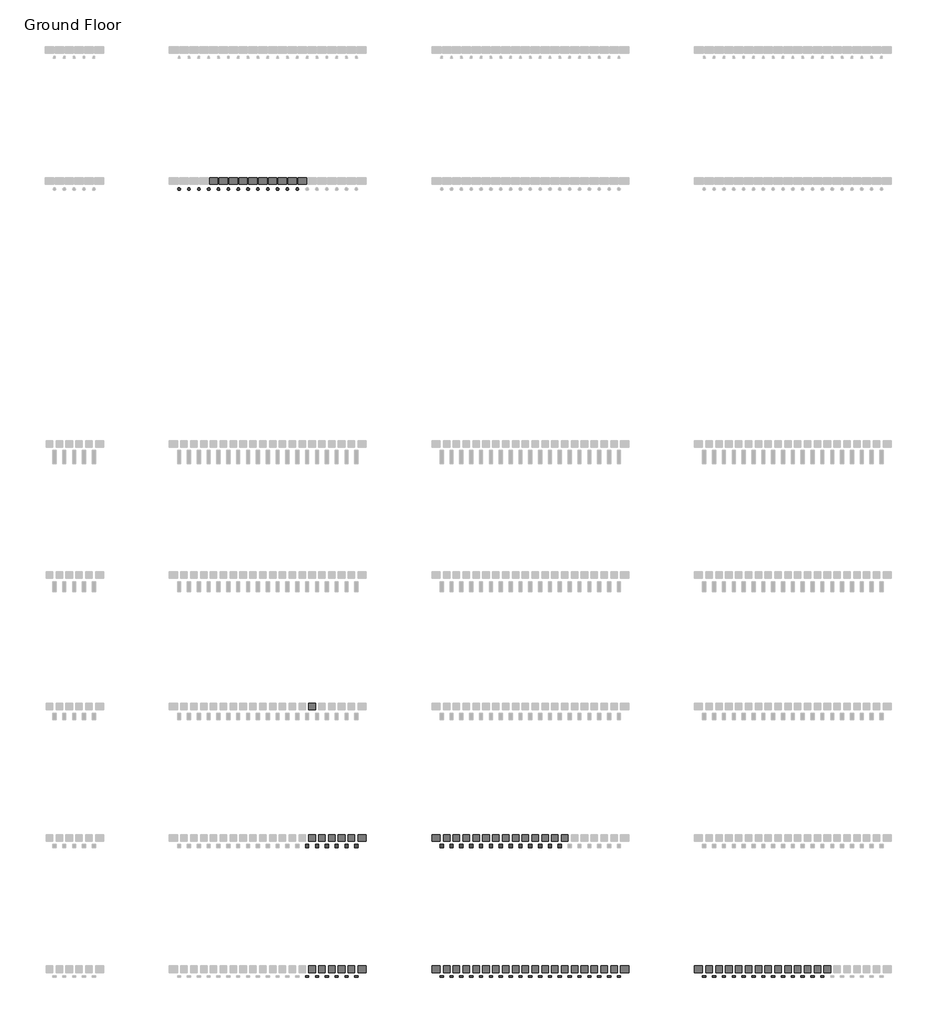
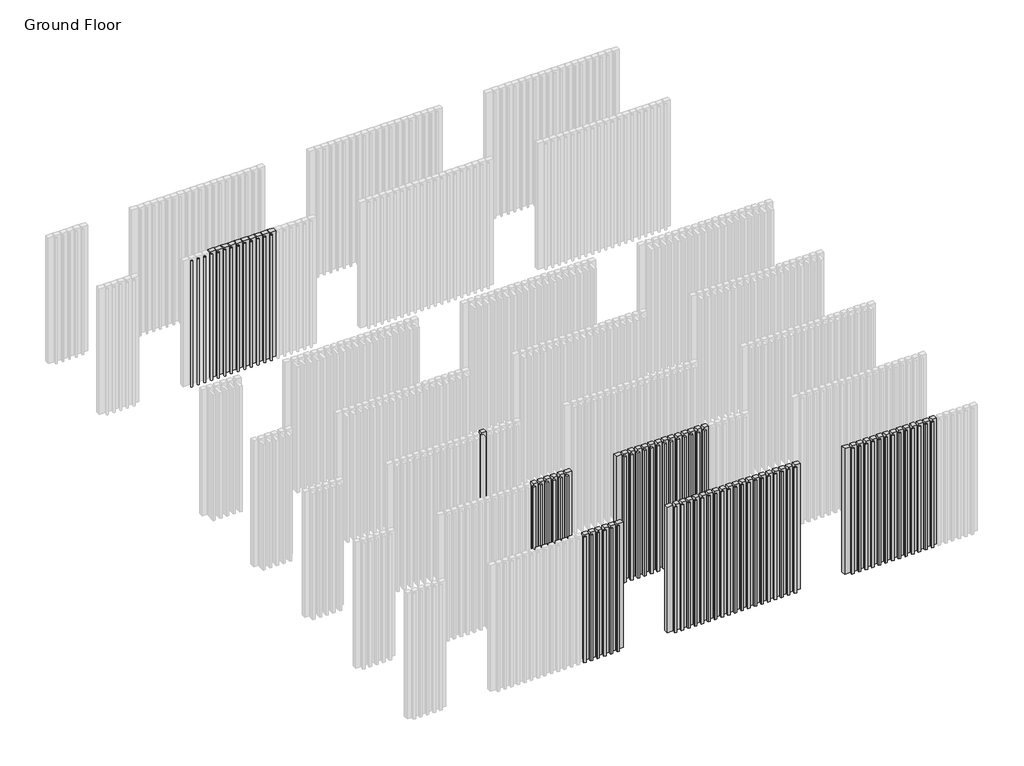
# One storey, part 18 of 350: 71 plates, 70 members.
"""IFC4 building model written with IfcOpenShell, lengths in millimetres."""

from ifc_helpers import new_model, si_unit, origin, place, context, project, spatial, transform, mapped, element, save
from components import rectangular_mullion_114f6a8f, rectangular_mullion_1e7650be, rectangular_mullion_d8d867ca, empty_system_panel_empty_a8601f27, empty_system_panel_empty_23ba90fe, empty_system_panel_empty_02e968fa, empty_system_panel_empty_a9f5b765

model = new_model("IFC4")

# Units and contexts
model_context = context("Model", 3, world=origin())
ifc_project = project(units=[si_unit("LENGTHUNIT", "METRE", prefix="MILLI")], contexts=[model_context])

# Site, building, storey
site = spatial("IfcSite", under=ifc_project)
building = spatial("IfcBuilding", under=site)
storey = spatial("IfcBuildingStorey", under=building, Name="Ground Floor", Elevation=0.0)

# Members
placement = place(None, origin())
rectangular_mullion_shape = rectangular_mullion_114f6a8f(model_context)
element("IfcMember", 1, ObjectType="Rectangular Mullion : Batten_Aluminium_Modinex_AluBatten_50x25_SpottedGum", at=placement, inside=storey, context=model_context, shape_type="MappedRepresentation", body=[
    mapped(rectangular_mullion_shape, transform((16016.4361642, 18968.2978302, 0.0), x_axis=(1.0, 0.0, 0.0), y_axis=(0.0, -1.0, 0.0), z_axis=(0.0, 0.0, -1.0))),
])
element("IfcMember", 2, ObjectType="Rectangular Mullion : Batten_Aluminium_Modinex_AluBatten_50x25_SpottedGum", at=placement, inside=storey, context=model_context, shape_type="MappedRepresentation", body=[
    mapped(rectangular_mullion_shape, transform((16166.4361642, 18968.2978302, 0.0), x_axis=(1.0, 0.0, 0.0), y_axis=(0.0, -1.0, 0.0), z_axis=(0.0, 0.0, -1.0))),
])
element("IfcMember", 3, ObjectType="Rectangular Mullion : Batten_Aluminium_Modinex_AluBatten_50x25_SpottedGum", at=placement, inside=storey, context=model_context, shape_type="MappedRepresentation", body=[
    mapped(rectangular_mullion_shape, transform((16316.4361642, 18968.2978302, 0.0), x_axis=(1.0, 0.0, 0.0), y_axis=(0.0, -1.0, 0.0), z_axis=(0.0, 0.0, -1.0))),
])
element("IfcMember", 4, ObjectType="Rectangular Mullion : Batten_Aluminium_Modinex_AluBatten_50x25_SpottedGum", at=placement, inside=storey, context=model_context, shape_type="MappedRepresentation", body=[
    mapped(rectangular_mullion_shape, transform((16466.4361642, 18968.2978302, 0.0), x_axis=(1.0, 0.0, 0.0), y_axis=(0.0, -1.0, 0.0), z_axis=(0.0, 0.0, -1.0))),
])
element("IfcMember", 5, ObjectType="Rectangular Mullion : Batten_Aluminium_Modinex_AluBatten_50x25_SpottedGum", at=placement, inside=storey, context=model_context, shape_type="MappedRepresentation", body=[
    mapped(rectangular_mullion_shape, transform((16616.4361642, 18968.2978302, 0.0), x_axis=(1.0, 0.0, 0.0), y_axis=(0.0, -1.0, 0.0), z_axis=(0.0, 0.0, -1.0))),
])
element("IfcMember", 6, ObjectType="Rectangular Mullion : Batten_Aluminium_Modinex_AluBatten_50x25_SpottedGum", at=placement, inside=storey, context=model_context, shape_type="MappedRepresentation", body=[
    mapped(rectangular_mullion_shape, transform((16766.4361642, 18968.2978302, 0.0), x_axis=(1.0, 0.0, 0.0), y_axis=(0.0, -1.0, 0.0), z_axis=(0.0, 0.0, -1.0))),
])
element("IfcMember", 7, ObjectType="Rectangular Mullion : Batten_Aluminium_Modinex_AluBatten_50x25_TasmanianOak", at=placement, inside=storey, context=model_context, shape_type="MappedRepresentation", body=[
    mapped(rectangular_mullion_shape, transform((18066.4361642, 18968.2978302, 0.0), x_axis=(1.0, 0.0, 0.0), y_axis=(0.0, -1.0, 0.0), z_axis=(0.0, 0.0, -1.0))),
])
element("IfcMember", 8, ObjectType="Rectangular Mullion : Batten_Aluminium_Modinex_AluBatten_50x25_TasmanianOak", at=placement, inside=storey, context=model_context, shape_type="MappedRepresentation", body=[
    mapped(rectangular_mullion_shape, transform((18216.4361642, 18968.2978302, 0.0), x_axis=(1.0, 0.0, 0.0), y_axis=(0.0, -1.0, 0.0), z_axis=(0.0, 0.0, -1.0))),
])
element("IfcMember", 9, ObjectType="Rectangular Mullion : Batten_Aluminium_Modinex_AluBatten_50x25_TasmanianOak", at=placement, inside=storey, context=model_context, shape_type="MappedRepresentation", body=[
    mapped(rectangular_mullion_shape, transform((18366.4361642, 18968.2978302, 0.0), x_axis=(1.0, 0.0, 0.0), y_axis=(0.0, -1.0, 0.0), z_axis=(0.0, 0.0, -1.0))),
])
element("IfcMember", 10, ObjectType="Rectangular Mullion : Batten_Aluminium_Modinex_AluBatten_50x25_TasmanianOak", at=placement, inside=storey, context=model_context, shape_type="MappedRepresentation", body=[
    mapped(rectangular_mullion_shape, transform((18516.4361642, 18968.2978302, 0.0), x_axis=(1.0, 0.0, 0.0), y_axis=(0.0, -1.0, 0.0), z_axis=(0.0, 0.0, -1.0))),
])
element("IfcMember", 11, ObjectType="Rectangular Mullion : Batten_Aluminium_Modinex_AluBatten_50x25_TasmanianOak", at=placement, inside=storey, context=model_context, shape_type="MappedRepresentation", body=[
    mapped(rectangular_mullion_shape, transform((18666.4361642, 18968.2978302, 0.0), x_axis=(1.0, 0.0, 0.0), y_axis=(0.0, -1.0, 0.0), z_axis=(0.0, 0.0, -1.0))),
])
element("IfcMember", 12, ObjectType="Rectangular Mullion : Batten_Aluminium_Modinex_AluBatten_50x25_TasmanianOak", at=placement, inside=storey, context=model_context, shape_type="MappedRepresentation", body=[
    mapped(rectangular_mullion_shape, transform((18816.4361642, 18968.2978302, 0.0), x_axis=(1.0, 0.0, 0.0), y_axis=(0.0, -1.0, 0.0), z_axis=(0.0, 0.0, -1.0))),
])
element("IfcMember", 13, ObjectType="Rectangular Mullion : Batten_Aluminium_Modinex_AluBatten_50x25_TasmanianOak", at=placement, inside=storey, context=model_context, shape_type="MappedRepresentation", body=[
    mapped(rectangular_mullion_shape, transform((18966.4361642, 18968.2978302, 0.0), x_axis=(1.0, 0.0, 0.0), y_axis=(0.0, -1.0, 0.0), z_axis=(0.0, 0.0, -1.0))),
])
element("IfcMember", 14, ObjectType="Rectangular Mullion : Batten_Aluminium_Modinex_AluBatten_50x25_TasmanianOak", at=placement, inside=storey, context=model_context, shape_type="MappedRepresentation", body=[
    mapped(rectangular_mullion_shape, transform((19116.4361642, 18968.2978302, 0.0), x_axis=(1.0, 0.0, 0.0), y_axis=(0.0, -1.0, 0.0), z_axis=(0.0, 0.0, -1.0))),
])
element("IfcMember", 15, ObjectType="Rectangular Mullion : Batten_Aluminium_Modinex_AluBatten_50x25_TasmanianOak", at=placement, inside=storey, context=model_context, shape_type="MappedRepresentation", body=[
    mapped(rectangular_mullion_shape, transform((19266.4361642, 18968.2978302, 0.0), x_axis=(1.0, 0.0, 0.0), y_axis=(0.0, -1.0, 0.0), z_axis=(0.0, 0.0, -1.0))),
])
element("IfcMember", 16, ObjectType="Rectangular Mullion : Batten_Aluminium_Modinex_AluBatten_50x25_TasmanianOak", at=placement, inside=storey, context=model_context, shape_type="MappedRepresentation", body=[
    mapped(rectangular_mullion_shape, transform((19416.4361642, 18968.2978302, 0.0), x_axis=(1.0, 0.0, 0.0), y_axis=(0.0, -1.0, 0.0), z_axis=(0.0, 0.0, -1.0))),
])
element("IfcMember", 17, ObjectType="Rectangular Mullion : Batten_Aluminium_Modinex_AluBatten_50x25_TasmanianOak", at=placement, inside=storey, context=model_context, shape_type="MappedRepresentation", body=[
    mapped(rectangular_mullion_shape, transform((19566.4361642, 18968.2978302, 0.0), x_axis=(1.0, 0.0, 0.0), y_axis=(0.0, -1.0, 0.0), z_axis=(0.0, 0.0, -1.0))),
])
element("IfcMember", 18, ObjectType="Rectangular Mullion : Batten_Aluminium_Modinex_AluBatten_50x25_TasmanianOak", at=placement, inside=storey, context=model_context, shape_type="MappedRepresentation", body=[
    mapped(rectangular_mullion_shape, transform((19716.4361642, 18968.2978302, 0.0), x_axis=(1.0, 0.0, 0.0), y_axis=(0.0, -1.0, 0.0), z_axis=(0.0, 0.0, -1.0))),
])
element("IfcMember", 19, ObjectType="Rectangular Mullion : Batten_Aluminium_Modinex_AluBatten_50x25_TasmanianOak", at=placement, inside=storey, context=model_context, shape_type="MappedRepresentation", body=[
    mapped(rectangular_mullion_shape, transform((19866.4361642, 18968.2978302, 0.0), x_axis=(1.0, 0.0, 0.0), y_axis=(0.0, -1.0, 0.0), z_axis=(0.0, 0.0, -1.0))),
])
element("IfcMember", 20, ObjectType="Rectangular Mullion : Batten_Aluminium_Modinex_AluBatten_50x25_TasmanianOak", at=placement, inside=storey, context=model_context, shape_type="MappedRepresentation", body=[
    mapped(rectangular_mullion_shape, transform((20016.4361642, 18968.2978302, 0.0), x_axis=(1.0, 0.0, 0.0), y_axis=(0.0, -1.0, 0.0), z_axis=(0.0, 0.0, -1.0))),
])
element("IfcMember", 21, ObjectType="Rectangular Mullion : Batten_Aluminium_Modinex_AluBatten_50x25_TasmanianOak", at=placement, inside=storey, context=model_context, shape_type="MappedRepresentation", body=[
    mapped(rectangular_mullion_shape, transform((20166.4361642, 18968.2978302, 0.0), x_axis=(1.0, 0.0, 0.0), y_axis=(0.0, -1.0, 0.0), z_axis=(0.0, 0.0, -1.0))),
])
element("IfcMember", 22, ObjectType="Rectangular Mullion : Batten_Aluminium_Modinex_AluBatten_50x25_TasmanianOak", at=placement, inside=storey, context=model_context, shape_type="MappedRepresentation", body=[
    mapped(rectangular_mullion_shape, transform((20316.4361642, 18968.2978302, 0.0), x_axis=(1.0, 0.0, 0.0), y_axis=(0.0, -1.0, 0.0), z_axis=(0.0, 0.0, -1.0))),
])
element("IfcMember", 23, ObjectType="Rectangular Mullion : Batten_Aluminium_Modinex_AluBatten_50x25_TasmanianOak", at=placement, inside=storey, context=model_context, shape_type="MappedRepresentation", body=[
    mapped(rectangular_mullion_shape, transform((20466.4361642, 18968.2978302, 0.0), x_axis=(1.0, 0.0, 0.0), y_axis=(0.0, -1.0, 0.0), z_axis=(0.0, 0.0, -1.0))),
])
element("IfcMember", 24, ObjectType="Rectangular Mullion : Batten_Aluminium_Modinex_AluBatten_50x25_TasmanianOak", at=placement, inside=storey, context=model_context, shape_type="MappedRepresentation", body=[
    mapped(rectangular_mullion_shape, transform((20616.4361642, 18968.2978302, 0.0), x_axis=(1.0, 0.0, 0.0), y_axis=(0.0, -1.0, 0.0), z_axis=(0.0, 0.0, -1.0))),
])
element("IfcMember", 25, ObjectType="Rectangular Mullion : Batten_Aluminium_Modinex_AluBatten_50x25_TasmanianOak", at=placement, inside=storey, context=model_context, shape_type="MappedRepresentation", body=[
    mapped(rectangular_mullion_shape, transform((20766.4361642, 18968.2978302, 0.0), x_axis=(1.0, 0.0, 0.0), y_axis=(0.0, -1.0, 0.0), z_axis=(0.0, 0.0, -1.0))),
])
rectangular_mullion_2_shape = rectangular_mullion_1e7650be(model_context)
element("IfcMember", 26, ObjectType="Rectangular Mullion : Batten_Aluminium_Modinex_AluBatten_50x50_SpottedGum", at=placement, inside=storey, context=model_context, shape_type="MappedRepresentation", body=[
    mapped(rectangular_mullion_2_shape, transform((16016.4361642, 20968.2978302, 0.0), x_axis=(1.0, 0.0, 0.0), y_axis=(0.0, -1.0, 0.0), z_axis=(0.0, 0.0, -1.0))),
])
element("IfcMember", 27, ObjectType="Rectangular Mullion : Batten_Aluminium_Modinex_AluBatten_50x50_SpottedGum", at=placement, inside=storey, context=model_context, shape_type="MappedRepresentation", body=[
    mapped(rectangular_mullion_2_shape, transform((16166.4361642, 20968.2978302, 0.0), x_axis=(1.0, 0.0, 0.0), y_axis=(0.0, -1.0, 0.0), z_axis=(0.0, 0.0, -1.0))),
])
element("IfcMember", 28, ObjectType="Rectangular Mullion : Batten_Aluminium_Modinex_AluBatten_50x50_SpottedGum", at=placement, inside=storey, context=model_context, shape_type="MappedRepresentation", body=[
    mapped(rectangular_mullion_2_shape, transform((16316.4361642, 20968.2978302, 0.0), x_axis=(1.0, 0.0, 0.0), y_axis=(0.0, -1.0, 0.0), z_axis=(0.0, 0.0, -1.0))),
])
element("IfcMember", 29, ObjectType="Rectangular Mullion : Batten_Aluminium_Modinex_AluBatten_50x50_SpottedGum", at=placement, inside=storey, context=model_context, shape_type="MappedRepresentation", body=[
    mapped(rectangular_mullion_2_shape, transform((16466.4361642, 20968.2978302, 0.0), x_axis=(1.0, 0.0, 0.0), y_axis=(0.0, -1.0, 0.0), z_axis=(0.0, 0.0, -1.0))),
])
element("IfcMember", 30, ObjectType="Rectangular Mullion : Batten_Aluminium_Modinex_AluBatten_50x50_SpottedGum", at=placement, inside=storey, context=model_context, shape_type="MappedRepresentation", body=[
    mapped(rectangular_mullion_2_shape, transform((16616.4361642, 20968.2978302, 0.0), x_axis=(1.0, 0.0, 0.0), y_axis=(0.0, -1.0, 0.0), z_axis=(0.0, 0.0, -1.0))),
])
element("IfcMember", 31, ObjectType="Rectangular Mullion : Batten_Aluminium_Modinex_AluBatten_50x50_SpottedGum", at=placement, inside=storey, context=model_context, shape_type="MappedRepresentation", body=[
    mapped(rectangular_mullion_2_shape, transform((16766.4361642, 20968.2978302, 0.0), x_axis=(1.0, 0.0, 0.0), y_axis=(0.0, -1.0, 0.0), z_axis=(0.0, 0.0, -1.0))),
])
element("IfcMember", 32, ObjectType="Rectangular Mullion : Batten_Aluminium_Modinex_AluBatten_50x50_TasmanianOak", at=placement, inside=storey, context=model_context, shape_type="MappedRepresentation", body=[
    mapped(rectangular_mullion_2_shape, transform((18066.4361642, 20968.2978302, 0.0), x_axis=(1.0, 0.0, 0.0), y_axis=(0.0, -1.0, 0.0), z_axis=(0.0, 0.0, -1.0))),
])
element("IfcMember", 33, ObjectType="Rectangular Mullion : Batten_Aluminium_Modinex_AluBatten_50x50_TasmanianOak", at=placement, inside=storey, context=model_context, shape_type="MappedRepresentation", body=[
    mapped(rectangular_mullion_2_shape, transform((18216.4361642, 20968.2978302, 0.0), x_axis=(1.0, 0.0, 0.0), y_axis=(0.0, -1.0, 0.0), z_axis=(0.0, 0.0, -1.0))),
])
element("IfcMember", 34, ObjectType="Rectangular Mullion : Batten_Aluminium_Modinex_AluBatten_50x50_TasmanianOak", at=placement, inside=storey, context=model_context, shape_type="MappedRepresentation", body=[
    mapped(rectangular_mullion_2_shape, transform((18366.4361642, 20968.2978302, 0.0), x_axis=(1.0, 0.0, 0.0), y_axis=(0.0, -1.0, 0.0), z_axis=(0.0, 0.0, -1.0))),
])
element("IfcMember", 35, ObjectType="Rectangular Mullion : Batten_Aluminium_Modinex_AluBatten_50x50_TasmanianOak", at=placement, inside=storey, context=model_context, shape_type="MappedRepresentation", body=[
    mapped(rectangular_mullion_2_shape, transform((18516.4361642, 20968.2978302, 0.0), x_axis=(1.0, 0.0, 0.0), y_axis=(0.0, -1.0, 0.0), z_axis=(0.0, 0.0, -1.0))),
])
element("IfcMember", 36, ObjectType="Rectangular Mullion : Batten_Aluminium_Modinex_AluBatten_50x50_TasmanianOak", at=placement, inside=storey, context=model_context, shape_type="MappedRepresentation", body=[
    mapped(rectangular_mullion_2_shape, transform((18666.4361642, 20968.2978302, 0.0), x_axis=(1.0, 0.0, 0.0), y_axis=(0.0, -1.0, 0.0), z_axis=(0.0, 0.0, -1.0))),
])
element("IfcMember", 37, ObjectType="Rectangular Mullion : Batten_Aluminium_Modinex_AluBatten_50x50_TasmanianOak", at=placement, inside=storey, context=model_context, shape_type="MappedRepresentation", body=[
    mapped(rectangular_mullion_2_shape, transform((18816.4361642, 20968.2978302, 0.0), x_axis=(1.0, 0.0, 0.0), y_axis=(0.0, -1.0, 0.0), z_axis=(0.0, 0.0, -1.0))),
])
element("IfcMember", 38, ObjectType="Rectangular Mullion : Batten_Aluminium_Modinex_AluBatten_50x50_TasmanianOak", at=placement, inside=storey, context=model_context, shape_type="MappedRepresentation", body=[
    mapped(rectangular_mullion_2_shape, transform((18966.4361642, 20968.2978302, 0.0), x_axis=(1.0, 0.0, 0.0), y_axis=(0.0, -1.0, 0.0), z_axis=(0.0, 0.0, -1.0))),
])
element("IfcMember", 39, ObjectType="Rectangular Mullion : Batten_Aluminium_Modinex_AluBatten_50x50_TasmanianOak", at=placement, inside=storey, context=model_context, shape_type="MappedRepresentation", body=[
    mapped(rectangular_mullion_2_shape, transform((19116.4361642, 20968.2978302, 0.0), x_axis=(1.0, 0.0, 0.0), y_axis=(0.0, -1.0, 0.0), z_axis=(0.0, 0.0, -1.0))),
])
element("IfcMember", 40, ObjectType="Rectangular Mullion : Batten_Aluminium_Modinex_AluBatten_50x50_TasmanianOak", at=placement, inside=storey, context=model_context, shape_type="MappedRepresentation", body=[
    mapped(rectangular_mullion_2_shape, transform((19266.4361642, 20968.2978302, 0.0), x_axis=(1.0, 0.0, 0.0), y_axis=(0.0, -1.0, 0.0), z_axis=(0.0, 0.0, -1.0))),
])
element("IfcMember", 41, ObjectType="Rectangular Mullion : Batten_Aluminium_Modinex_AluBatten_50x50_TasmanianOak", at=placement, inside=storey, context=model_context, shape_type="MappedRepresentation", body=[
    mapped(rectangular_mullion_2_shape, transform((19416.4361642, 20968.2978302, 0.0), x_axis=(1.0, 0.0, 0.0), y_axis=(0.0, -1.0, 0.0), z_axis=(0.0, 0.0, -1.0))),
])
element("IfcMember", 42, ObjectType="Rectangular Mullion : Batten_Aluminium_Modinex_AluBatten_50x50_TasmanianOak", at=placement, inside=storey, context=model_context, shape_type="MappedRepresentation", body=[
    mapped(rectangular_mullion_2_shape, transform((19566.4361642, 20968.2978302, 0.0), x_axis=(1.0, 0.0, 0.0), y_axis=(0.0, -1.0, 0.0), z_axis=(0.0, 0.0, -1.0))),
])
element("IfcMember", 43, ObjectType="Rectangular Mullion : Batten_Aluminium_Modinex_AluBatten_50x50_TasmanianOak", at=placement, inside=storey, context=model_context, shape_type="MappedRepresentation", body=[
    mapped(rectangular_mullion_2_shape, transform((19716.4361642, 20968.2978302, 0.0), x_axis=(1.0, 0.0, 0.0), y_axis=(0.0, -1.0, 0.0), z_axis=(0.0, 0.0, -1.0))),
])
element("IfcMember", 44, ObjectType="Rectangular Mullion : Batten_Aluminium_Modinex_AluBatten_50x50_TasmanianOak", at=placement, inside=storey, context=model_context, shape_type="MappedRepresentation", body=[
    mapped(rectangular_mullion_2_shape, transform((19866.4361642, 20968.2978302, 0.0), x_axis=(1.0, 0.0, 0.0), y_axis=(0.0, -1.0, 0.0), z_axis=(0.0, 0.0, -1.0))),
])
rectangular_mullion_3_shape = rectangular_mullion_d8d867ca(model_context)
element("IfcMember", 45, ObjectType="Rectangular Mullion : Batten_Aluminium_Modinex_Austratus_Linear_Dowel_SpottedGum", at=placement, inside=storey, context=model_context, shape_type="MappedRepresentation", body=[
    mapped(rectangular_mullion_3_shape, transform((14066.4361642, 30968.2978302, 0.0), x_axis=(1.0, 0.0, 0.0), y_axis=(0.0, -1.0, 0.0), z_axis=(0.0, 0.0, -1.0))),
])
element("IfcMember", 46, ObjectType="Rectangular Mullion : Batten_Aluminium_Modinex_Austratus_Linear_Dowel_SpottedGum", at=placement, inside=storey, context=model_context, shape_type="MappedRepresentation", body=[
    mapped(rectangular_mullion_3_shape, transform((14216.4361642, 30968.2978302, 0.0), x_axis=(1.0, 0.0, 0.0), y_axis=(0.0, -1.0, 0.0), z_axis=(0.0, 0.0, -1.0))),
])
element("IfcMember", 47, ObjectType="Rectangular Mullion : Batten_Aluminium_Modinex_Austratus_Linear_Dowel_SpottedGum", at=placement, inside=storey, context=model_context, shape_type="MappedRepresentation", body=[
    mapped(rectangular_mullion_3_shape, transform((14366.4361642, 30968.2978302, 0.0), x_axis=(1.0, 0.0, 0.0), y_axis=(0.0, -1.0, 0.0), z_axis=(0.0, 0.0, -1.0))),
])
element("IfcMember", 48, ObjectType="Rectangular Mullion : Batten_Aluminium_Modinex_Austratus_Linear_Dowel_SpottedGum", at=placement, inside=storey, context=model_context, shape_type="MappedRepresentation", body=[
    mapped(rectangular_mullion_3_shape, transform((14516.4361642, 30968.2978302, 0.0), x_axis=(1.0, 0.0, 0.0), y_axis=(0.0, -1.0, 0.0), z_axis=(0.0, 0.0, -1.0))),
])
element("IfcMember", 49, ObjectType="Rectangular Mullion : Batten_Aluminium_Modinex_Austratus_Linear_Dowel_SpottedGum", at=placement, inside=storey, context=model_context, shape_type="MappedRepresentation", body=[
    mapped(rectangular_mullion_3_shape, transform((14666.4361642, 30968.2978302, 0.0), x_axis=(1.0, 0.0, 0.0), y_axis=(0.0, -1.0, 0.0), z_axis=(0.0, 0.0, -1.0))),
])
element("IfcMember", 50, ObjectType="Rectangular Mullion : Batten_Aluminium_Modinex_Austratus_Linear_Dowel_SpottedGum", at=placement, inside=storey, context=model_context, shape_type="MappedRepresentation", body=[
    mapped(rectangular_mullion_3_shape, transform((14816.4361642, 30968.2978302, 0.0), x_axis=(1.0, 0.0, 0.0), y_axis=(0.0, -1.0, 0.0), z_axis=(0.0, 0.0, -1.0))),
])
element("IfcMember", 51, ObjectType="Rectangular Mullion : Batten_Aluminium_Modinex_Austratus_Linear_Dowel_SpottedGum", at=placement, inside=storey, context=model_context, shape_type="MappedRepresentation", body=[
    mapped(rectangular_mullion_3_shape, transform((14966.4361642, 30968.2978302, 0.0), x_axis=(1.0, 0.0, 0.0), y_axis=(0.0, -1.0, 0.0), z_axis=(0.0, 0.0, -1.0))),
])
element("IfcMember", 52, ObjectType="Rectangular Mullion : Batten_Aluminium_Modinex_Austratus_Linear_Dowel_SpottedGum", at=placement, inside=storey, context=model_context, shape_type="MappedRepresentation", body=[
    mapped(rectangular_mullion_3_shape, transform((15116.4361642, 30968.2978302, 0.0), x_axis=(1.0, 0.0, 0.0), y_axis=(0.0, -1.0, 0.0), z_axis=(0.0, 0.0, -1.0))),
])
element("IfcMember", 53, ObjectType="Rectangular Mullion : Batten_Aluminium_Modinex_Austratus_Linear_Dowel_SpottedGum", at=placement, inside=storey, context=model_context, shape_type="MappedRepresentation", body=[
    mapped(rectangular_mullion_3_shape, transform((15266.4361642, 30968.2978302, 0.0), x_axis=(1.0, 0.0, 0.0), y_axis=(0.0, -1.0, 0.0), z_axis=(0.0, 0.0, -1.0))),
])
element("IfcMember", 54, ObjectType="Rectangular Mullion : Batten_Aluminium_Modinex_Austratus_Linear_Dowel_SpottedGum", at=placement, inside=storey, context=model_context, shape_type="MappedRepresentation", body=[
    mapped(rectangular_mullion_3_shape, transform((15416.4361642, 30968.2978302, 0.0), x_axis=(1.0, 0.0, 0.0), y_axis=(0.0, -1.0, 0.0), z_axis=(0.0, 0.0, -1.0))),
])
element("IfcMember", 55, ObjectType="Rectangular Mullion : Batten_Aluminium_Modinex_Austratus_Linear_Dowel_SpottedGum", at=placement, inside=storey, context=model_context, shape_type="MappedRepresentation", body=[
    mapped(rectangular_mullion_3_shape, transform((15566.4361642, 30968.2978302, 0.0), x_axis=(1.0, 0.0, 0.0), y_axis=(0.0, -1.0, 0.0), z_axis=(0.0, 0.0, -1.0))),
])
element("IfcMember", 56, ObjectType="Rectangular Mullion : Batten_Aluminium_Modinex_Austratus_Linear_Dowel_SpottedGum", at=placement, inside=storey, context=model_context, shape_type="MappedRepresentation", body=[
    mapped(rectangular_mullion_3_shape, transform((15716.4361642, 30968.2978302, 0.0), x_axis=(1.0, 0.0, 0.0), y_axis=(0.0, -1.0, 0.0), z_axis=(0.0, 0.0, -1.0))),
])
element("IfcMember", 57, ObjectType="Rectangular Mullion : Batten_Aluminium_Modinex_Austratus_Linear_Dowel_SpottedGum", at=placement, inside=storey, context=model_context, shape_type="MappedRepresentation", body=[
    mapped(rectangular_mullion_3_shape, transform((15866.4361642, 30968.2978302, 0.0), x_axis=(1.0, 0.0, 0.0), y_axis=(0.0, -1.0, 0.0), z_axis=(0.0, 0.0, -1.0))),
])
element("IfcMember", 58, ObjectType="Rectangular Mullion : Batten_Aluminium_Modinex_AluBatten_50x25_WhiteOak", at=placement, inside=storey, context=model_context, shape_type="MappedRepresentation", body=[
    mapped(rectangular_mullion_shape, transform((22066.4361642, 18968.2978302, 0.0), x_axis=(1.0, 0.0, 0.0), y_axis=(0.0, -1.0, 0.0), z_axis=(0.0, 0.0, -1.0))),
])
element("IfcMember", 59, ObjectType="Rectangular Mullion : Batten_Aluminium_Modinex_AluBatten_50x25_WhiteOak", at=placement, inside=storey, context=model_context, shape_type="MappedRepresentation", body=[
    mapped(rectangular_mullion_shape, transform((22216.4361642, 18968.2978302, 0.0), x_axis=(1.0, 0.0, 0.0), y_axis=(0.0, -1.0, 0.0), z_axis=(0.0, 0.0, -1.0))),
])
element("IfcMember", 60, ObjectType="Rectangular Mullion : Batten_Aluminium_Modinex_AluBatten_50x25_WhiteOak", at=placement, inside=storey, context=model_context, shape_type="MappedRepresentation", body=[
    mapped(rectangular_mullion_shape, transform((22366.4361642, 18968.2978302, 0.0), x_axis=(1.0, 0.0, 0.0), y_axis=(0.0, -1.0, 0.0), z_axis=(0.0, 0.0, -1.0))),
])
element("IfcMember", 61, ObjectType="Rectangular Mullion : Batten_Aluminium_Modinex_AluBatten_50x25_WhiteOak", at=placement, inside=storey, context=model_context, shape_type="MappedRepresentation", body=[
    mapped(rectangular_mullion_shape, transform((22516.4361642, 18968.2978302, 0.0), x_axis=(1.0, 0.0, 0.0), y_axis=(0.0, -1.0, 0.0), z_axis=(0.0, 0.0, -1.0))),
])
element("IfcMember", 62, ObjectType="Rectangular Mullion : Batten_Aluminium_Modinex_AluBatten_50x25_WhiteOak", at=placement, inside=storey, context=model_context, shape_type="MappedRepresentation", body=[
    mapped(rectangular_mullion_shape, transform((22666.4361642, 18968.2978302, 0.0), x_axis=(1.0, 0.0, 0.0), y_axis=(0.0, -1.0, 0.0), z_axis=(0.0, 0.0, -1.0))),
])
element("IfcMember", 63, ObjectType="Rectangular Mullion : Batten_Aluminium_Modinex_AluBatten_50x25_WhiteOak", at=placement, inside=storey, context=model_context, shape_type="MappedRepresentation", body=[
    mapped(rectangular_mullion_shape, transform((22816.4361642, 18968.2978302, 0.0), x_axis=(1.0, 0.0, 0.0), y_axis=(0.0, -1.0, 0.0), z_axis=(0.0, 0.0, -1.0))),
])
element("IfcMember", 64, ObjectType="Rectangular Mullion : Batten_Aluminium_Modinex_AluBatten_50x25_WhiteOak", at=placement, inside=storey, context=model_context, shape_type="MappedRepresentation", body=[
    mapped(rectangular_mullion_shape, transform((22966.4361642, 18968.2978302, 0.0), x_axis=(1.0, 0.0, 0.0), y_axis=(0.0, -1.0, 0.0), z_axis=(0.0, 0.0, -1.0))),
])
element("IfcMember", 65, ObjectType="Rectangular Mullion : Batten_Aluminium_Modinex_AluBatten_50x25_WhiteOak", at=placement, inside=storey, context=model_context, shape_type="MappedRepresentation", body=[
    mapped(rectangular_mullion_shape, transform((23116.4361642, 18968.2978302, 0.0), x_axis=(1.0, 0.0, 0.0), y_axis=(0.0, -1.0, 0.0), z_axis=(0.0, 0.0, -1.0))),
])
element("IfcMember", 66, ObjectType="Rectangular Mullion : Batten_Aluminium_Modinex_AluBatten_50x25_WhiteOak", at=placement, inside=storey, context=model_context, shape_type="MappedRepresentation", body=[
    mapped(rectangular_mullion_shape, transform((23266.4361642, 18968.2978302, 0.0), x_axis=(1.0, 0.0, 0.0), y_axis=(0.0, -1.0, 0.0), z_axis=(0.0, 0.0, -1.0))),
])
element("IfcMember", 67, ObjectType="Rectangular Mullion : Batten_Aluminium_Modinex_AluBatten_50x25_WhiteOak", at=placement, inside=storey, context=model_context, shape_type="MappedRepresentation", body=[
    mapped(rectangular_mullion_shape, transform((23416.4361642, 18968.2978302, 0.0), x_axis=(1.0, 0.0, 0.0), y_axis=(0.0, -1.0, 0.0), z_axis=(0.0, 0.0, -1.0))),
])
element("IfcMember", 68, ObjectType="Rectangular Mullion : Batten_Aluminium_Modinex_AluBatten_50x25_WhiteOak", at=placement, inside=storey, context=model_context, shape_type="MappedRepresentation", body=[
    mapped(rectangular_mullion_shape, transform((23566.4361642, 18968.2978302, 0.0), x_axis=(1.0, 0.0, 0.0), y_axis=(0.0, -1.0, 0.0), z_axis=(0.0, 0.0, -1.0))),
])
element("IfcMember", 69, ObjectType="Rectangular Mullion : Batten_Aluminium_Modinex_AluBatten_50x25_WhiteOak", at=placement, inside=storey, context=model_context, shape_type="MappedRepresentation", body=[
    mapped(rectangular_mullion_shape, transform((23716.4361642, 18968.2978302, 0.0), x_axis=(1.0, 0.0, 0.0), y_axis=(0.0, -1.0, 0.0), z_axis=(0.0, 0.0, -1.0))),
])
element("IfcMember", 70, ObjectType="Rectangular Mullion : Batten_Aluminium_Modinex_AluBatten_50x25_WhiteOak", at=placement, inside=storey, context=model_context, shape_type="MappedRepresentation", body=[
    mapped(rectangular_mullion_shape, transform((23866.4361642, 18968.2978302, 0.0), x_axis=(1.0, 0.0, 0.0), y_axis=(0.0, -1.0, 0.0), z_axis=(0.0, 0.0, -1.0))),
])

# Plates
empty_system_panel_empty_shape = empty_system_panel_empty_a8601f27(model_context)
element("IfcPlate", 71, ObjectType="Empty System Panel : Empty", at=placement, inside=storey, context=model_context, shape_type="MappedRepresentation", body=[
    mapped(empty_system_panel_empty_shape, transform((17978.9361641, 18968.2978302, 0.0), x_axis=(1.0, 0.0, 0.0), y_axis=(0.0, 1.0, 0.0), z_axis=(0.0, 0.0, 1.0))),
])
element("IfcPlate", 72, ObjectType="Empty System Panel : Empty", at=placement, inside=storey, context=model_context, shape_type="MappedRepresentation", body=[
    mapped(empty_system_panel_empty_shape, transform((17978.9361641, 20968.2978302, 0.0), x_axis=(1.0, 0.0, 0.0), y_axis=(0.0, 1.0, 0.0), z_axis=(0.0, 0.0, 1.0))),
])
element("IfcPlate", 73, ObjectType="Empty System Panel : Empty", at=placement, inside=storey, context=model_context, shape_type="MappedRepresentation", body=[
    mapped(empty_system_panel_empty_shape, transform((21978.9361641, 18968.2978302, 0.0), x_axis=(1.0, 0.0, 0.0), y_axis=(0.0, 1.0, 0.0), z_axis=(0.0, 0.0, 1.0))),
])
empty_system_panel_empty_2_shape = empty_system_panel_empty_23ba90fe(model_context)
element("IfcPlate", 74, ObjectType="Empty System Panel : Empty", at=placement, inside=storey, context=model_context, shape_type="MappedRepresentation", body=[
    mapped(empty_system_panel_empty_2_shape, transform((16091.4361642, 18968.2978302, 0.0), x_axis=(1.0, 0.0, 0.0), y_axis=(0.0, 1.0, 0.0), z_axis=(0.0, 0.0, 1.0))),
])
element("IfcPlate", 75, ObjectType="Empty System Panel : Empty", at=placement, inside=storey, context=model_context, shape_type="MappedRepresentation", body=[
    mapped(empty_system_panel_empty_2_shape, transform((16241.4361642, 18968.2978302, 0.0), x_axis=(1.0, 0.0, 0.0), y_axis=(0.0, 1.0, 0.0), z_axis=(0.0, 0.0, 1.0))),
])
element("IfcPlate", 76, ObjectType="Empty System Panel : Empty", at=placement, inside=storey, context=model_context, shape_type="MappedRepresentation", body=[
    mapped(empty_system_panel_empty_2_shape, transform((16391.4361642, 18968.2978302, 0.0), x_axis=(1.0, 0.0, 0.0), y_axis=(0.0, 1.0, 0.0), z_axis=(0.0, 0.0, 1.0))),
])
element("IfcPlate", 77, ObjectType="Empty System Panel : Empty", at=placement, inside=storey, context=model_context, shape_type="MappedRepresentation", body=[
    mapped(empty_system_panel_empty_2_shape, transform((16541.4361642, 18968.2978302, 0.0), x_axis=(1.0, 0.0, 0.0), y_axis=(0.0, 1.0, 0.0), z_axis=(0.0, 0.0, 1.0))),
])
element("IfcPlate", 78, ObjectType="Empty System Panel : Empty", at=placement, inside=storey, context=model_context, shape_type="MappedRepresentation", body=[
    mapped(empty_system_panel_empty_2_shape, transform((16691.4361642, 18968.2978302, 0.0), x_axis=(1.0, 0.0, 0.0), y_axis=(0.0, 1.0, 0.0), z_axis=(0.0, 0.0, 1.0))),
])
element("IfcPlate", 79, ObjectType="Empty System Panel : Empty", at=placement, inside=storey, context=model_context, shape_type="MappedRepresentation", body=[
    mapped(empty_system_panel_empty_2_shape, transform((18141.4361642, 18968.2978302, 0.0), x_axis=(1.0, 0.0, 0.0), y_axis=(0.0, 1.0, 0.0), z_axis=(0.0, 0.0, 1.0))),
])
element("IfcPlate", 80, ObjectType="Empty System Panel : Empty", at=placement, inside=storey, context=model_context, shape_type="MappedRepresentation", body=[
    mapped(empty_system_panel_empty_2_shape, transform((18291.4361642, 18968.2978302, 0.0), x_axis=(1.0, 0.0, 0.0), y_axis=(0.0, 1.0, 0.0), z_axis=(0.0, 0.0, 1.0))),
])
element("IfcPlate", 81, ObjectType="Empty System Panel : Empty", at=placement, inside=storey, context=model_context, shape_type="MappedRepresentation", body=[
    mapped(empty_system_panel_empty_2_shape, transform((18441.4361642, 18968.2978302, 0.0), x_axis=(1.0, 0.0, 0.0), y_axis=(0.0, 1.0, 0.0), z_axis=(0.0, 0.0, 1.0))),
])
element("IfcPlate", 82, ObjectType="Empty System Panel : Empty", at=placement, inside=storey, context=model_context, shape_type="MappedRepresentation", body=[
    mapped(empty_system_panel_empty_2_shape, transform((18591.4361642, 18968.2978302, 0.0), x_axis=(1.0, 0.0, 0.0), y_axis=(0.0, 1.0, 0.0), z_axis=(0.0, 0.0, 1.0))),
])
element("IfcPlate", 83, ObjectType="Empty System Panel : Empty", at=placement, inside=storey, context=model_context, shape_type="MappedRepresentation", body=[
    mapped(empty_system_panel_empty_2_shape, transform((18741.4361642, 18968.2978302, 0.0), x_axis=(1.0, 0.0, 0.0), y_axis=(0.0, 1.0, 0.0), z_axis=(0.0, 0.0, 1.0))),
])
element("IfcPlate", 84, ObjectType="Empty System Panel : Empty", at=placement, inside=storey, context=model_context, shape_type="MappedRepresentation", body=[
    mapped(empty_system_panel_empty_2_shape, transform((18891.4361642, 18968.2978302, 0.0), x_axis=(1.0, 0.0, 0.0), y_axis=(0.0, 1.0, 0.0), z_axis=(0.0, 0.0, 1.0))),
])
element("IfcPlate", 85, ObjectType="Empty System Panel : Empty", at=placement, inside=storey, context=model_context, shape_type="MappedRepresentation", body=[
    mapped(empty_system_panel_empty_2_shape, transform((19041.4361642, 18968.2978302, 0.0), x_axis=(1.0, 0.0, 0.0), y_axis=(0.0, 1.0, 0.0), z_axis=(0.0, 0.0, 1.0))),
])
element("IfcPlate", 86, ObjectType="Empty System Panel : Empty", at=placement, inside=storey, context=model_context, shape_type="MappedRepresentation", body=[
    mapped(empty_system_panel_empty_2_shape, transform((19191.4361642, 18968.2978302, 0.0), x_axis=(1.0, 0.0, 0.0), y_axis=(0.0, 1.0, 0.0), z_axis=(0.0, 0.0, 1.0))),
])
element("IfcPlate", 87, ObjectType="Empty System Panel : Empty", at=placement, inside=storey, context=model_context, shape_type="MappedRepresentation", body=[
    mapped(empty_system_panel_empty_2_shape, transform((19341.4361642, 18968.2978302, 0.0), x_axis=(1.0, 0.0, 0.0), y_axis=(0.0, 1.0, 0.0), z_axis=(0.0, 0.0, 1.0))),
])
element("IfcPlate", 88, ObjectType="Empty System Panel : Empty", at=placement, inside=storey, context=model_context, shape_type="MappedRepresentation", body=[
    mapped(empty_system_panel_empty_2_shape, transform((19491.4361642, 18968.2978302, 0.0), x_axis=(1.0, 0.0, 0.0), y_axis=(0.0, 1.0, 0.0), z_axis=(0.0, 0.0, 1.0))),
])
element("IfcPlate", 89, ObjectType="Empty System Panel : Empty", at=placement, inside=storey, context=model_context, shape_type="MappedRepresentation", body=[
    mapped(empty_system_panel_empty_2_shape, transform((19641.4361642, 18968.2978302, 0.0), x_axis=(1.0, 0.0, 0.0), y_axis=(0.0, 1.0, 0.0), z_axis=(0.0, 0.0, 1.0))),
])
element("IfcPlate", 90, ObjectType="Empty System Panel : Empty", at=placement, inside=storey, context=model_context, shape_type="MappedRepresentation", body=[
    mapped(empty_system_panel_empty_2_shape, transform((19791.4361642, 18968.2978302, 0.0), x_axis=(1.0, 0.0, 0.0), y_axis=(0.0, 1.0, 0.0), z_axis=(0.0, 0.0, 1.0))),
])
element("IfcPlate", 91, ObjectType="Empty System Panel : Empty", at=placement, inside=storey, context=model_context, shape_type="MappedRepresentation", body=[
    mapped(empty_system_panel_empty_2_shape, transform((19941.4361642, 18968.2978302, 0.0), x_axis=(1.0, 0.0, 0.0), y_axis=(0.0, 1.0, 0.0), z_axis=(0.0, 0.0, 1.0))),
])
element("IfcPlate", 92, ObjectType="Empty System Panel : Empty", at=placement, inside=storey, context=model_context, shape_type="MappedRepresentation", body=[
    mapped(empty_system_panel_empty_2_shape, transform((20091.4361642, 18968.2978302, 0.0), x_axis=(1.0, 0.0, 0.0), y_axis=(0.0, 1.0, 0.0), z_axis=(0.0, 0.0, 1.0))),
])
element("IfcPlate", 93, ObjectType="Empty System Panel : Empty", at=placement, inside=storey, context=model_context, shape_type="MappedRepresentation", body=[
    mapped(empty_system_panel_empty_2_shape, transform((20241.4361642, 18968.2978302, 0.0), x_axis=(1.0, 0.0, 0.0), y_axis=(0.0, 1.0, 0.0), z_axis=(0.0, 0.0, 1.0))),
])
element("IfcPlate", 94, ObjectType="Empty System Panel : Empty", at=placement, inside=storey, context=model_context, shape_type="MappedRepresentation", body=[
    mapped(empty_system_panel_empty_2_shape, transform((20391.4361642, 18968.2978302, 0.0), x_axis=(1.0, 0.0, 0.0), y_axis=(0.0, 1.0, 0.0), z_axis=(0.0, 0.0, 1.0))),
])
element("IfcPlate", 95, ObjectType="Empty System Panel : Empty", at=placement, inside=storey, context=model_context, shape_type="MappedRepresentation", body=[
    mapped(empty_system_panel_empty_2_shape, transform((20541.4361642, 18968.2978302, 0.0), x_axis=(1.0, 0.0, 0.0), y_axis=(0.0, 1.0, 0.0), z_axis=(0.0, 0.0, 1.0))),
])
element("IfcPlate", 96, ObjectType="Empty System Panel : Empty", at=placement, inside=storey, context=model_context, shape_type="MappedRepresentation", body=[
    mapped(empty_system_panel_empty_2_shape, transform((20691.4361642, 18968.2978302, 0.0), x_axis=(1.0, 0.0, 0.0), y_axis=(0.0, 1.0, 0.0), z_axis=(0.0, 0.0, 1.0))),
])
element("IfcPlate", 97, ObjectType="Empty System Panel : Empty", at=placement, inside=storey, context=model_context, shape_type="MappedRepresentation", body=[
    mapped(empty_system_panel_empty_2_shape, transform((16091.4361642, 20968.2978302, 0.0), x_axis=(1.0, 0.0, 0.0), y_axis=(0.0, 1.0, 0.0), z_axis=(0.0, 0.0, 1.0))),
])
element("IfcPlate", 98, ObjectType="Empty System Panel : Empty", at=placement, inside=storey, context=model_context, shape_type="MappedRepresentation", body=[
    mapped(empty_system_panel_empty_2_shape, transform((16241.4361642, 20968.2978302, 0.0), x_axis=(1.0, 0.0, 0.0), y_axis=(0.0, 1.0, 0.0), z_axis=(0.0, 0.0, 1.0))),
])
element("IfcPlate", 99, ObjectType="Empty System Panel : Empty", at=placement, inside=storey, context=model_context, shape_type="MappedRepresentation", body=[
    mapped(empty_system_panel_empty_2_shape, transform((16391.4361642, 20968.2978302, 0.0), x_axis=(1.0, 0.0, 0.0), y_axis=(0.0, 1.0, 0.0), z_axis=(0.0, 0.0, 1.0))),
])
element("IfcPlate", 100, ObjectType="Empty System Panel : Empty", at=placement, inside=storey, context=model_context, shape_type="MappedRepresentation", body=[
    mapped(empty_system_panel_empty_2_shape, transform((16541.4361642, 20968.2978302, 0.0), x_axis=(1.0, 0.0, 0.0), y_axis=(0.0, 1.0, 0.0), z_axis=(0.0, 0.0, 1.0))),
])
element("IfcPlate", 101, ObjectType="Empty System Panel : Empty", at=placement, inside=storey, context=model_context, shape_type="MappedRepresentation", body=[
    mapped(empty_system_panel_empty_2_shape, transform((16691.4361642, 20968.2978302, 0.0), x_axis=(1.0, 0.0, 0.0), y_axis=(0.0, 1.0, 0.0), z_axis=(0.0, 0.0, 1.0))),
])
element("IfcPlate", 102, ObjectType="Empty System Panel : Empty", at=placement, inside=storey, context=model_context, shape_type="MappedRepresentation", body=[
    mapped(empty_system_panel_empty_2_shape, transform((18141.4361642, 20968.2978302, 0.0), x_axis=(1.0, 0.0, 0.0), y_axis=(0.0, 1.0, 0.0), z_axis=(0.0, 0.0, 1.0))),
])
element("IfcPlate", 103, ObjectType="Empty System Panel : Empty", at=placement, inside=storey, context=model_context, shape_type="MappedRepresentation", body=[
    mapped(empty_system_panel_empty_2_shape, transform((18291.4361642, 20968.2978302, 0.0), x_axis=(1.0, 0.0, 0.0), y_axis=(0.0, 1.0, 0.0), z_axis=(0.0, 0.0, 1.0))),
])
element("IfcPlate", 104, ObjectType="Empty System Panel : Empty", at=placement, inside=storey, context=model_context, shape_type="MappedRepresentation", body=[
    mapped(empty_system_panel_empty_2_shape, transform((18441.4361642, 20968.2978302, 0.0), x_axis=(1.0, 0.0, 0.0), y_axis=(0.0, 1.0, 0.0), z_axis=(0.0, 0.0, 1.0))),
])
element("IfcPlate", 105, ObjectType="Empty System Panel : Empty", at=placement, inside=storey, context=model_context, shape_type="MappedRepresentation", body=[
    mapped(empty_system_panel_empty_2_shape, transform((18591.4361642, 20968.2978302, 0.0), x_axis=(1.0, 0.0, 0.0), y_axis=(0.0, 1.0, 0.0), z_axis=(0.0, 0.0, 1.0))),
])
element("IfcPlate", 106, ObjectType="Empty System Panel : Empty", at=placement, inside=storey, context=model_context, shape_type="MappedRepresentation", body=[
    mapped(empty_system_panel_empty_2_shape, transform((18741.4361642, 20968.2978302, 0.0), x_axis=(1.0, 0.0, 0.0), y_axis=(0.0, 1.0, 0.0), z_axis=(0.0, 0.0, 1.0))),
])
element("IfcPlate", 107, ObjectType="Empty System Panel : Empty", at=placement, inside=storey, context=model_context, shape_type="MappedRepresentation", body=[
    mapped(empty_system_panel_empty_2_shape, transform((18891.4361642, 20968.2978302, 0.0), x_axis=(1.0, 0.0, 0.0), y_axis=(0.0, 1.0, 0.0), z_axis=(0.0, 0.0, 1.0))),
])
element("IfcPlate", 108, ObjectType="Empty System Panel : Empty", at=placement, inside=storey, context=model_context, shape_type="MappedRepresentation", body=[
    mapped(empty_system_panel_empty_2_shape, transform((19041.4361642, 20968.2978302, 0.0), x_axis=(1.0, 0.0, 0.0), y_axis=(0.0, 1.0, 0.0), z_axis=(0.0, 0.0, 1.0))),
])
element("IfcPlate", 109, ObjectType="Empty System Panel : Empty", at=placement, inside=storey, context=model_context, shape_type="MappedRepresentation", body=[
    mapped(empty_system_panel_empty_2_shape, transform((19191.4361642, 20968.2978302, 0.0), x_axis=(1.0, 0.0, 0.0), y_axis=(0.0, 1.0, 0.0), z_axis=(0.0, 0.0, 1.0))),
])
element("IfcPlate", 110, ObjectType="Empty System Panel : Empty", at=placement, inside=storey, context=model_context, shape_type="MappedRepresentation", body=[
    mapped(empty_system_panel_empty_2_shape, transform((19341.4361642, 20968.2978302, 0.0), x_axis=(1.0, 0.0, 0.0), y_axis=(0.0, 1.0, 0.0), z_axis=(0.0, 0.0, 1.0))),
])
element("IfcPlate", 111, ObjectType="Empty System Panel : Empty", at=placement, inside=storey, context=model_context, shape_type="MappedRepresentation", body=[
    mapped(empty_system_panel_empty_2_shape, transform((19491.4361642, 20968.2978302, 0.0), x_axis=(1.0, 0.0, 0.0), y_axis=(0.0, 1.0, 0.0), z_axis=(0.0, 0.0, 1.0))),
])
element("IfcPlate", 112, ObjectType="Empty System Panel : Empty", at=placement, inside=storey, context=model_context, shape_type="MappedRepresentation", body=[
    mapped(empty_system_panel_empty_2_shape, transform((19641.4361642, 20968.2978302, 0.0), x_axis=(1.0, 0.0, 0.0), y_axis=(0.0, 1.0, 0.0), z_axis=(0.0, 0.0, 1.0))),
])
element("IfcPlate", 113, ObjectType="Empty System Panel : Empty", at=placement, inside=storey, context=model_context, shape_type="MappedRepresentation", body=[
    mapped(empty_system_panel_empty_2_shape, transform((19791.4361642, 20968.2978302, 0.0), x_axis=(1.0, 0.0, 0.0), y_axis=(0.0, 1.0, 0.0), z_axis=(0.0, 0.0, 1.0))),
])
element("IfcPlate", 114, ObjectType="Empty System Panel : Empty", at=placement, inside=storey, context=model_context, shape_type="MappedRepresentation", body=[
    mapped(empty_system_panel_empty_2_shape, transform((19941.4361642, 20968.2978302, 0.0), x_axis=(1.0, 0.0, 0.0), y_axis=(0.0, 1.0, 0.0), z_axis=(0.0, 0.0, 1.0))),
])
element("IfcPlate", 115, ObjectType="Empty System Panel : Empty", at=placement, inside=storey, context=model_context, shape_type="MappedRepresentation", body=[
    mapped(empty_system_panel_empty_2_shape, transform((16091.4361642, 22968.2978302, 0.0), x_axis=(1.0, 0.0, 0.0), y_axis=(0.0, 1.0, 0.0), z_axis=(0.0, 0.0, 1.0))),
])
element("IfcPlate", 116, ObjectType="Empty System Panel : Empty", at=placement, inside=storey, context=model_context, shape_type="MappedRepresentation", body=[
    mapped(empty_system_panel_empty_2_shape, transform((22141.4361642, 18968.2978302, 0.0), x_axis=(1.0, 0.0, 0.0), y_axis=(0.0, 1.0, 0.0), z_axis=(0.0, 0.0, 1.0))),
])
element("IfcPlate", 117, ObjectType="Empty System Panel : Empty", at=placement, inside=storey, context=model_context, shape_type="MappedRepresentation", body=[
    mapped(empty_system_panel_empty_2_shape, transform((22291.4361642, 18968.2978302, 0.0), x_axis=(1.0, 0.0, 0.0), y_axis=(0.0, 1.0, 0.0), z_axis=(0.0, 0.0, 1.0))),
])
element("IfcPlate", 118, ObjectType="Empty System Panel : Empty", at=placement, inside=storey, context=model_context, shape_type="MappedRepresentation", body=[
    mapped(empty_system_panel_empty_2_shape, transform((22441.4361642, 18968.2978302, 0.0), x_axis=(1.0, 0.0, 0.0), y_axis=(0.0, 1.0, 0.0), z_axis=(0.0, 0.0, 1.0))),
])
element("IfcPlate", 119, ObjectType="Empty System Panel : Empty", at=placement, inside=storey, context=model_context, shape_type="MappedRepresentation", body=[
    mapped(empty_system_panel_empty_2_shape, transform((22591.4361642, 18968.2978302, 0.0), x_axis=(1.0, 0.0, 0.0), y_axis=(0.0, 1.0, 0.0), z_axis=(0.0, 0.0, 1.0))),
])
element("IfcPlate", 120, ObjectType="Empty System Panel : Empty", at=placement, inside=storey, context=model_context, shape_type="MappedRepresentation", body=[
    mapped(empty_system_panel_empty_2_shape, transform((22741.4361642, 18968.2978302, 0.0), x_axis=(1.0, 0.0, 0.0), y_axis=(0.0, 1.0, 0.0), z_axis=(0.0, 0.0, 1.0))),
])
element("IfcPlate", 121, ObjectType="Empty System Panel : Empty", at=placement, inside=storey, context=model_context, shape_type="MappedRepresentation", body=[
    mapped(empty_system_panel_empty_2_shape, transform((22891.4361642, 18968.2978302, 0.0), x_axis=(1.0, 0.0, 0.0), y_axis=(0.0, 1.0, 0.0), z_axis=(0.0, 0.0, 1.0))),
])
element("IfcPlate", 122, ObjectType="Empty System Panel : Empty", at=placement, inside=storey, context=model_context, shape_type="MappedRepresentation", body=[
    mapped(empty_system_panel_empty_2_shape, transform((23041.4361642, 18968.2978302, 0.0), x_axis=(1.0, 0.0, 0.0), y_axis=(0.0, 1.0, 0.0), z_axis=(0.0, 0.0, 1.0))),
])
element("IfcPlate", 123, ObjectType="Empty System Panel : Empty", at=placement, inside=storey, context=model_context, shape_type="MappedRepresentation", body=[
    mapped(empty_system_panel_empty_2_shape, transform((23191.4361642, 18968.2978302, 0.0), x_axis=(1.0, 0.0, 0.0), y_axis=(0.0, 1.0, 0.0), z_axis=(0.0, 0.0, 1.0))),
])
element("IfcPlate", 124, ObjectType="Empty System Panel : Empty", at=placement, inside=storey, context=model_context, shape_type="MappedRepresentation", body=[
    mapped(empty_system_panel_empty_2_shape, transform((23341.4361642, 18968.2978302, 0.0), x_axis=(1.0, 0.0, 0.0), y_axis=(0.0, 1.0, 0.0), z_axis=(0.0, 0.0, 1.0))),
])
element("IfcPlate", 125, ObjectType="Empty System Panel : Empty", at=placement, inside=storey, context=model_context, shape_type="MappedRepresentation", body=[
    mapped(empty_system_panel_empty_2_shape, transform((23491.4361642, 18968.2978302, 0.0), x_axis=(1.0, 0.0, 0.0), y_axis=(0.0, 1.0, 0.0), z_axis=(0.0, 0.0, 1.0))),
])
element("IfcPlate", 126, ObjectType="Empty System Panel : Empty", at=placement, inside=storey, context=model_context, shape_type="MappedRepresentation", body=[
    mapped(empty_system_panel_empty_2_shape, transform((23641.4361642, 18968.2978302, 0.0), x_axis=(1.0, 0.0, 0.0), y_axis=(0.0, 1.0, 0.0), z_axis=(0.0, 0.0, 1.0))),
])
element("IfcPlate", 127, ObjectType="Empty System Panel : Empty", at=placement, inside=storey, context=model_context, shape_type="MappedRepresentation", body=[
    mapped(empty_system_panel_empty_2_shape, transform((23791.4361642, 18968.2978302, 0.0), x_axis=(1.0, 0.0, 0.0), y_axis=(0.0, 1.0, 0.0), z_axis=(0.0, 0.0, 1.0))),
])
element("IfcPlate", 128, ObjectType="Empty System Panel : Empty", at=placement, inside=storey, context=model_context, shape_type="MappedRepresentation", body=[
    mapped(empty_system_panel_empty_2_shape, transform((23941.4361642, 18968.2978302, 0.0), x_axis=(1.0, 0.0, 0.0), y_axis=(0.0, 1.0, 0.0), z_axis=(0.0, 0.0, 1.0))),
])
empty_system_panel_empty_3_shape = empty_system_panel_empty_02e968fa(model_context)
element("IfcPlate", 129, ObjectType="Empty System Panel : Empty", at=placement, inside=storey, context=model_context, shape_type="MappedRepresentation", body=[
    mapped(empty_system_panel_empty_3_shape, transform((16853.9361641, 18968.2978302, 0.0), x_axis=(1.0, 0.0, 0.0), y_axis=(0.0, 1.0, 0.0), z_axis=(0.0, 0.0, 1.0))),
])
element("IfcPlate", 130, ObjectType="Empty System Panel : Empty", at=placement, inside=storey, context=model_context, shape_type="MappedRepresentation", body=[
    mapped(empty_system_panel_empty_3_shape, transform((20853.9361641, 18968.2978302, 0.0), x_axis=(1.0, 0.0, 0.0), y_axis=(0.0, 1.0, 0.0), z_axis=(0.0, 0.0, 1.0))),
])
element("IfcPlate", 131, ObjectType="Empty System Panel : Empty", at=placement, inside=storey, context=model_context, shape_type="MappedRepresentation", body=[
    mapped(empty_system_panel_empty_3_shape, transform((16853.9361641, 20968.2978302, 0.0), x_axis=(1.0, 0.0, 0.0), y_axis=(0.0, 1.0, 0.0), z_axis=(0.0, 0.0, 1.0))),
])
empty_system_panel_empty_4_shape = empty_system_panel_empty_a9f5b765(model_context)
element("IfcPlate", 132, ObjectType="Empty System Panel : Empty", at=placement, inside=storey, context=model_context, shape_type="MappedRepresentation", body=[
    mapped(empty_system_panel_empty_4_shape, transform((14591.4361642, 30968.2978302, 0.0), x_axis=(1.0, 0.0, 0.0), y_axis=(0.0, 1.0, 0.0), z_axis=(0.0, 0.0, 1.0))),
])
element("IfcPlate", 133, ObjectType="Empty System Panel : Empty", at=placement, inside=storey, context=model_context, shape_type="MappedRepresentation", body=[
    mapped(empty_system_panel_empty_4_shape, transform((14741.4361642, 30968.2978302, 0.0), x_axis=(1.0, 0.0, 0.0), y_axis=(0.0, 1.0, 0.0), z_axis=(0.0, 0.0, 1.0))),
])
element("IfcPlate", 134, ObjectType="Empty System Panel : Empty", at=placement, inside=storey, context=model_context, shape_type="MappedRepresentation", body=[
    mapped(empty_system_panel_empty_4_shape, transform((14891.4361642, 30968.2978302, 0.0), x_axis=(1.0, 0.0, 0.0), y_axis=(0.0, 1.0, 0.0), z_axis=(0.0, 0.0, 1.0))),
])
element("IfcPlate", 135, ObjectType="Empty System Panel : Empty", at=placement, inside=storey, context=model_context, shape_type="MappedRepresentation", body=[
    mapped(empty_system_panel_empty_4_shape, transform((15041.4361642, 30968.2978302, 0.0), x_axis=(1.0, 0.0, 0.0), y_axis=(0.0, 1.0, 0.0), z_axis=(0.0, 0.0, 1.0))),
])
element("IfcPlate", 136, ObjectType="Empty System Panel : Empty", at=placement, inside=storey, context=model_context, shape_type="MappedRepresentation", body=[
    mapped(empty_system_panel_empty_4_shape, transform((15191.4361642, 30968.2978302, 0.0), x_axis=(1.0, 0.0, 0.0), y_axis=(0.0, 1.0, 0.0), z_axis=(0.0, 0.0, 1.0))),
])
element("IfcPlate", 137, ObjectType="Empty System Panel : Empty", at=placement, inside=storey, context=model_context, shape_type="MappedRepresentation", body=[
    mapped(empty_system_panel_empty_4_shape, transform((15341.4361642, 30968.2978302, 0.0), x_axis=(1.0, 0.0, 0.0), y_axis=(0.0, 1.0, 0.0), z_axis=(0.0, 0.0, 1.0))),
])
element("IfcPlate", 138, ObjectType="Empty System Panel : Empty", at=placement, inside=storey, context=model_context, shape_type="MappedRepresentation", body=[
    mapped(empty_system_panel_empty_4_shape, transform((15491.4361642, 30968.2978302, 0.0), x_axis=(1.0, 0.0, 0.0), y_axis=(0.0, 1.0, 0.0), z_axis=(0.0, 0.0, 1.0))),
])
element("IfcPlate", 139, ObjectType="Empty System Panel : Empty", at=placement, inside=storey, context=model_context, shape_type="MappedRepresentation", body=[
    mapped(empty_system_panel_empty_4_shape, transform((15641.4361642, 30968.2978302, 0.0), x_axis=(1.0, 0.0, 0.0), y_axis=(0.0, 1.0, 0.0), z_axis=(0.0, 0.0, 1.0))),
])
element("IfcPlate", 140, ObjectType="Empty System Panel : Empty", at=placement, inside=storey, context=model_context, shape_type="MappedRepresentation", body=[
    mapped(empty_system_panel_empty_4_shape, transform((15791.4361642, 30968.2978302, 0.0), x_axis=(1.0, 0.0, 0.0), y_axis=(0.0, 1.0, 0.0), z_axis=(0.0, 0.0, 1.0))),
])
element("IfcPlate", 141, ObjectType="Empty System Panel : Empty", at=placement, inside=storey, context=model_context, shape_type="MappedRepresentation", body=[
    mapped(empty_system_panel_empty_4_shape, transform((15941.4361642, 30968.2978302, 0.0), x_axis=(1.0, 0.0, 0.0), y_axis=(0.0, 1.0, 0.0), z_axis=(0.0, 0.0, 1.0))),
])

save(model, "model.ifc")
